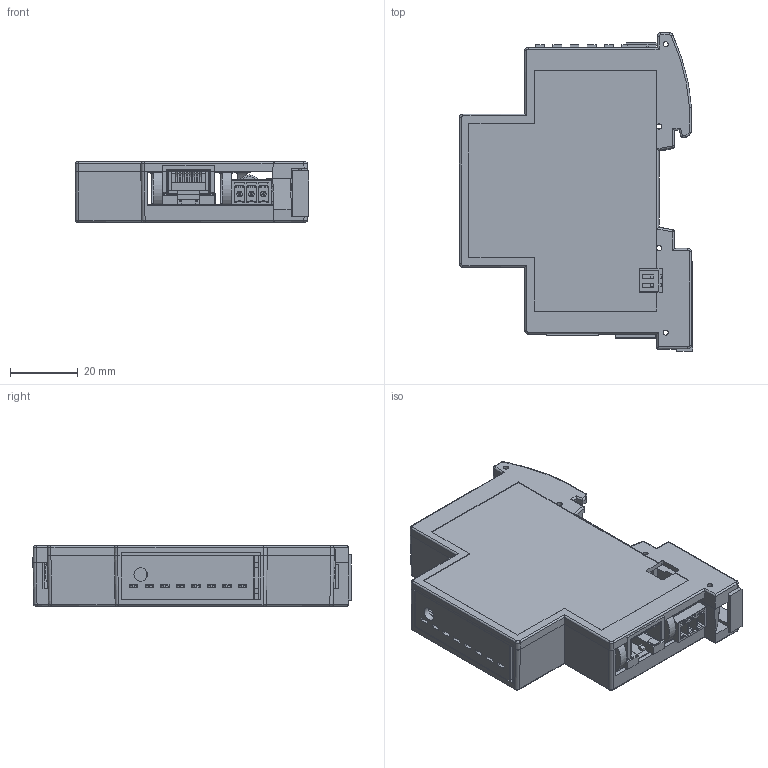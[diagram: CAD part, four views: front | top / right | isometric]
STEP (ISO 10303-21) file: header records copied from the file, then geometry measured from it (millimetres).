
FILE_DESCRIPTION(/* description */ ('Unknown'),/* implementation_level */ '2;1');
FILE_NAME(/* name */ '6MBU',/* time_stamp */ '2024-01-19T10:58:59+01:00',/* author */ ('Unknown'),/* organization */ ('Unknown'),/* preprocessor_version */ 'ST-DEVELOPER v18.102',/* originating_system */ 'Solid Edge',/* authorisation */ 'Unknown');
FILE_SCHEMA (('AUTOMOTIVE_DESIGN {1 0 10303 214 3 1 1}'));
Products named in the file (1): 6MBU
Bounding box: 68.65 x 93.66 x 17.71 mm (x, y, z)
Surface area: 35879.6 mm2 (no closed solid volume)
Topology: 0 solids, 28 shells, 1712 faces, 5415 edges, 3720 vertices
Faces by surface type: plane 1258, cylinder 400, torus 31, cone 11, sphere 8, bspline 4
Full cylindrical faces by diameter (mm): 0.457 x1, 0.6 x4, 1.2 x5, 1.25 x3, 1.5 x4, 1.52 x1, 1.6 x3, 2 x2, 3.5 x4, 4 x1, 6.3 x2
Entity records: 65606 total; most frequent: CARTESIAN_POINT 11571, DIRECTION 9580, ORIENTED_EDGE 9424, EDGE_CURVE 5346, LINE 4380, VECTOR 4380, VERTEX_POINT 3706, AXIS2_PLACEMENT_3D 2600
